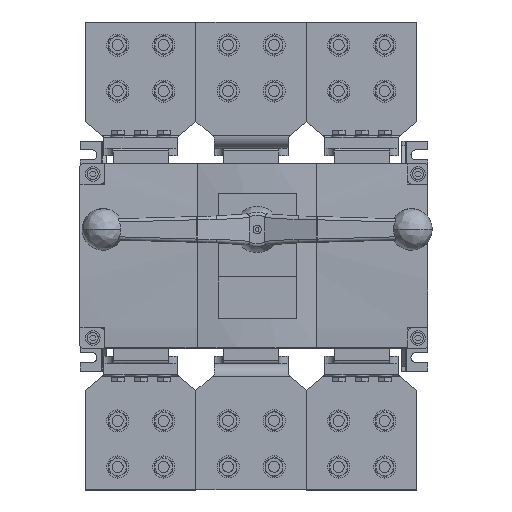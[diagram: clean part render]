
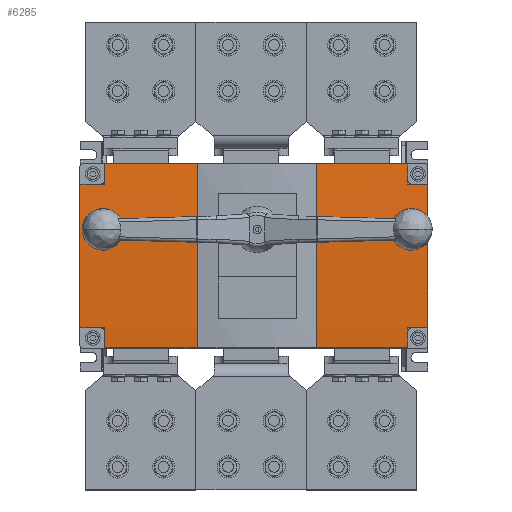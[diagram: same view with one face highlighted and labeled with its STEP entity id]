
A CAD part, top view. The second image highlights one B-rep face of the part: STEP entity #6285.
In plain terms, the highlighted cylindrical face has radius 1252 mm (diameter 2504 mm), a partial arc.
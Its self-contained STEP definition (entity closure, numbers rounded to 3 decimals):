
#5895=CARTESIAN_POINT('',(-167.,0.,-1228.));
#5896=DIRECTION('',(1.,0.,0.));
#5897=DIRECTION('',(0.,-0.062,0.998));
#5898=AXIS2_PLACEMENT_3D('',#5895,#5896,#5897);
#5916=CARTESIAN_POINT('',(-189.,0.,-1228.));
#5917=DIRECTION('',(1.,0.,0.));
#5918=DIRECTION('',(0.,0.062,0.998));
#5919=AXIS2_PLACEMENT_3D('',#5916,#5917,#5918);
#5933=CARTESIAN_POINT('',(-167.,0.,-1228.));
#5934=DIRECTION('',(1.,0.,0.));
#5935=DIRECTION('',(0.,0.08,0.997));
#5936=AXIS2_PLACEMENT_3D('',#5933,#5934,#5935);
#5946=DIRECTION('',(1.,0.,0.));
#5947=VECTOR('',#5946,329.);
#5948=CARTESIAN_POINT('',(-167.,100.,20.));
#5949=LINE('',#5948,#5947);
#5950=DIRECTION('',(1.,0.,0.));
#5951=VECTOR('',#5950,27.);
#5952=CARTESIAN_POINT('',(162.,78.,21.568));
#5953=LINE('',#5952,#5951);
#5954=DIRECTION('',(-1.,0.,0.));
#5955=VECTOR('',#5954,27.);
#5956=CARTESIAN_POINT('',(189.,-78.,21.568));
#5957=LINE('',#5956,#5955);
#5958=DIRECTION('',(-1.,0.,0.));
#5959=VECTOR('',#5958,329.);
#5960=CARTESIAN_POINT('',(162.,-100.,20.));
#5961=LINE('',#5960,#5959);
#5962=DIRECTION('',(-1.,0.,0.));
#5963=VECTOR('',#5962,22.);
#5964=CARTESIAN_POINT('',(-167.,-78.,21.568));
#5965=LINE('',#5964,#5963);
#5966=DIRECTION('',(1.,0.,0.));
#5967=VECTOR('',#5966,22.);
#5968=CARTESIAN_POINT('',(-189.,78.,21.568));
#5969=LINE('',#5968,#5967);
#5970=CARTESIAN_POINT('',(7.5,0.,-1228.));
#5971=DIRECTION('',(-1.,0.,0.));
#5972=DIRECTION('',(0.,-0.029,1.));
#5973=AXIS2_PLACEMENT_3D('',#5970,#5971,#5972);
#5979=DIRECTION('',(-1.,0.,0.));
#5980=VECTOR('',#5979,15.);
#5981=CARTESIAN_POINT('',(7.5,-36.,23.482));
#5982=LINE('',#5981,#5980);
#5987=CARTESIAN_POINT('',(-7.5,0.,-1228.));
#5988=DIRECTION('',(-1.,0.,0.));
#5989=DIRECTION('',(0.,-0.029,1.));
#5990=AXIS2_PLACEMENT_3D('',#5987,#5988,#5989);
#5996=DIRECTION('',(-1.,0.,0.));
#5997=VECTOR('',#5996,15.);
#5998=CARTESIAN_POINT('',(7.5,-21.,23.824));
#5999=LINE('',#5998,#5997);
#6008=CARTESIAN_POINT('',(162.,0.,-1228.));
#6009=DIRECTION('',(-1.,0.,0.));
#6010=DIRECTION('',(0.,0.062,0.998));
#6011=AXIS2_PLACEMENT_3D('',#6008,#6009,#6010);
#6025=CARTESIAN_POINT('',(189.,0.,-1228.));
#6026=DIRECTION('',(-1.,0.,0.));
#6027=DIRECTION('',(0.,-0.062,0.998));
#6028=AXIS2_PLACEMENT_3D('',#6025,#6026,#6027);
#6046=CARTESIAN_POINT('',(162.,0.,-1228.));
#6047=DIRECTION('',(-1.,0.,0.));
#6048=DIRECTION('',(0.,-0.08,0.997));
#6049=AXIS2_PLACEMENT_3D('',#6046,#6047,#6048);
#6091=CARTESIAN_POINT('',(-167.,-78.,21.568));
#6092=VERTEX_POINT('',#6091);
#6093=CARTESIAN_POINT('',(-167.,-100.,20.));
#6094=VERTEX_POINT('',#6093);
#6095=CARTESIAN_POINT('',(-189.,-78.,21.568));
#6096=VERTEX_POINT('',#6095);
#6097=CARTESIAN_POINT('',(-189.,78.,21.568));
#6098=VERTEX_POINT('',#6097);
#6099=CARTESIAN_POINT('',(-167.,78.,21.568));
#6100=VERTEX_POINT('',#6099);
#6101=CARTESIAN_POINT('',(-167.,100.,20.));
#6102=VERTEX_POINT('',#6101);
#6103=CARTESIAN_POINT('',(162.,100.,20.));
#6104=VERTEX_POINT('',#6103);
#6105=CARTESIAN_POINT('',(162.,-100.,20.));
#6106=VERTEX_POINT('',#6105);
#6107=CARTESIAN_POINT('',(162.,78.,21.568));
#6108=VERTEX_POINT('',#6107);
#6109=CARTESIAN_POINT('',(189.,78.,21.568));
#6110=VERTEX_POINT('',#6109);
#6111=CARTESIAN_POINT('',(189.,-78.,21.568));
#6112=VERTEX_POINT('',#6111);
#6113=CARTESIAN_POINT('',(162.,-78.,21.568));
#6114=VERTEX_POINT('',#6113);
#6115=CARTESIAN_POINT('',(7.5,-36.,23.482));
#6116=CARTESIAN_POINT('',(7.5,-21.,23.824));
#6117=VERTEX_POINT('',#6115);
#6118=VERTEX_POINT('',#6116);
#6119=CARTESIAN_POINT('',(-7.5,-21.,23.824));
#6120=VERTEX_POINT('',#6119);
#6121=CARTESIAN_POINT('',(-7.5,-36.,23.482));
#6122=VERTEX_POINT('',#6121);
#6250=CARTESIAN_POINT('',(189.,0.,-1228.));
#6251=DIRECTION('',(1.,0.,0.));
#6252=DIRECTION('',(0.,1.,0.));
#6253=AXIS2_PLACEMENT_3D('',#6250,#6251,#6252);
#6254=CYLINDRICAL_SURFACE('',#6253,1252.);
#6255=ORIENTED_EDGE('',*,*,#6241,.T.);
#6257=ORIENTED_EDGE('',*,*,#6256,.F.);
#6259=ORIENTED_EDGE('',*,*,#6258,.T.);
#6261=ORIENTED_EDGE('',*,*,#6260,.F.);
#6263=ORIENTED_EDGE('',*,*,#6262,.T.);
#6265=ORIENTED_EDGE('',*,*,#6264,.F.);
#6267=ORIENTED_EDGE('',*,*,#6266,.T.);
#6268=ORIENTED_EDGE('',*,*,#6173,.F.);
#6269=ORIENTED_EDGE('',*,*,#6188,.T.);
#6270=ORIENTED_EDGE('',*,*,#6203,.F.);
#6271=ORIENTED_EDGE('',*,*,#6216,.T.);
#6272=ORIENTED_EDGE('',*,*,#6230,.F.);
#6273=EDGE_LOOP('',(#6255,#6257,#6259,#6261,#6263,#6265,#6267,#6268,#6269,#6270,
#6271,#6272));
#6274=FACE_OUTER_BOUND('',#6273,.F.);
#6276=ORIENTED_EDGE('',*,*,#6275,.T.);
#6278=ORIENTED_EDGE('',*,*,#6277,.T.);
#6280=ORIENTED_EDGE('',*,*,#6279,.F.);
#6282=ORIENTED_EDGE('',*,*,#6281,.F.);
#6283=EDGE_LOOP('',(#6276,#6278,#6280,#6282));
#6284=FACE_BOUND('',#6283,.F.);
#5899=CIRCLE('',#5898,1252.);
#5920=CIRCLE('',#5919,1252.);
#5937=CIRCLE('',#5936,1252.);
#5974=CIRCLE('',#5973,1252.);
#5991=CIRCLE('',#5990,1252.);
#6012=CIRCLE('',#6011,1252.);
#6029=CIRCLE('',#6028,1252.);
#6050=CIRCLE('',#6049,1252.);
#6173=EDGE_CURVE('',#6092,#6094,#5899,.T.);
#6188=EDGE_CURVE('',#6092,#6096,#5965,.T.);
#6203=EDGE_CURVE('',#6098,#6096,#5920,.T.);
#6216=EDGE_CURVE('',#6098,#6100,#5969,.T.);
#6230=EDGE_CURVE('',#6102,#6100,#5937,.T.);
#6241=EDGE_CURVE('',#6102,#6104,#5949,.T.);
#6256=EDGE_CURVE('',#6108,#6104,#6012,.T.);
#6258=EDGE_CURVE('',#6108,#6110,#5953,.T.);
#6260=EDGE_CURVE('',#6112,#6110,#6029,.T.);
#6262=EDGE_CURVE('',#6112,#6114,#5957,.T.);
#6264=EDGE_CURVE('',#6106,#6114,#6050,.T.);
#6266=EDGE_CURVE('',#6106,#6094,#5961,.T.);
#6275=EDGE_CURVE('',#6117,#6118,#5974,.T.);
#6277=EDGE_CURVE('',#6118,#6120,#5999,.T.);
#6279=EDGE_CURVE('',#6122,#6120,#5991,.T.);
#6281=EDGE_CURVE('',#6117,#6122,#5982,.T.);
#6285=ADVANCED_FACE('',(#6274,#6284),#6254,.T.);
